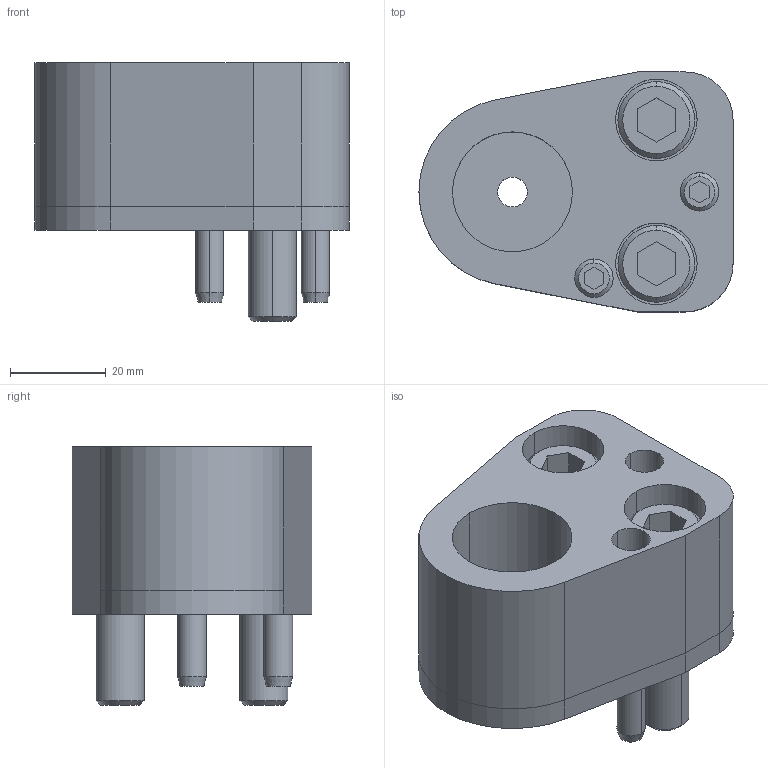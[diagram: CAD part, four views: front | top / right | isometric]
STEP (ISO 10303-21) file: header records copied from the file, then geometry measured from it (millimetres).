
FILE_DESCRIPTION(/* description */ (''),/* implementation_level */ '2;1');
FILE_NAME(/* name */ '3d_ap-ap25_02880_r00.stp',/* time_stamp */ '2011-01-10T14:17:46+09:00',/* author */ ('MISUMI'),/* organization */ (''),/* preprocessor_version */ 'ST-DEVELOPER v11',/* originating_system */ 'UGS - NX 5.0',/* authorisation */ '');
FILE_SCHEMA (('CONFIG_CONTROL_DESIGN'));
Length unit declared in the file: millimetre
Products named in the file (1): 3d_ap-ap25_02880_r00
Bounding box: 65.5 x 50 x 54 mm (x, y, z)
Volume: 76871.3 mm3; surface area: 29275.2 mm2
Topology: 8 solids, 8 shells, 155 faces, 346 edges, 222 vertices
Faces by surface type: plane 67, cylinder 62, cone 26
Entity records: 4474 total; most frequent: DIRECTION 804, CARTESIAN_POINT 772, ORIENTED_EDGE 692, EDGE_CURVE 346, AXIS2_PLACEMENT_3D 306, VERTEX_POINT 222, LINE 192, VECTOR 192
